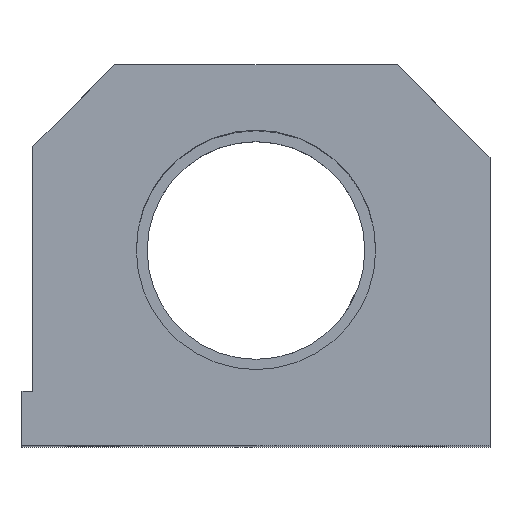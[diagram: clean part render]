
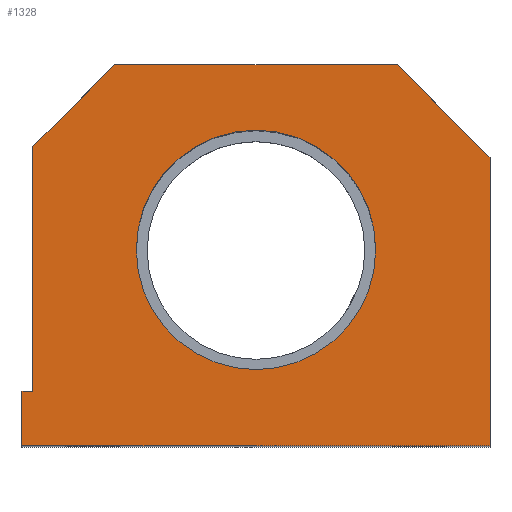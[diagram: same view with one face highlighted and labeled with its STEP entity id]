
A CAD part, top view. The second image highlights one B-rep face of the part: STEP entity #1328.
In plain terms, the highlighted planar face has unit normal (0, 0, 1).
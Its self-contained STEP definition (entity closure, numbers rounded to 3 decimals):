
#13 = CARTESIAN_POINT ( 'NONE',  ( 0., 0., 38. ) ) ;
#23 = FACE_OUTER_BOUND ( 'NONE', #1350, .T. ) ;
#27 = VECTOR ( 'NONE', #1153, 1000. ) ;
#35 = CARTESIAN_POINT ( 'NONE',  ( 11., 0.5, 38. ) ) ;
#58 = LINE ( 'NONE', #264, #27 ) ;
#105 = DIRECTION ( 'NONE',  ( -1., 0., 0. ) ) ;
#145 = VECTOR ( 'NONE', #1828, 1000. ) ;
#165 = LINE ( 'NONE', #2082, #1974 ) ;
#175 = CARTESIAN_POINT ( 'NONE',  ( -21.5, 9., 38. ) ) ;
#206 = DIRECTION ( 'NONE',  ( 1., 0., 0. ) ) ;
#264 = CARTESIAN_POINT ( 'NONE',  ( 21.5, 17.5, 38. ) ) ;
#397 = CARTESIAN_POINT ( 'NONE',  ( -11., 0.5, 38. ) ) ;
#442 = CARTESIAN_POINT ( 'NONE',  ( -21.5, -12.5, 38. ) ) ;
#455 = AXIS2_PLACEMENT_3D ( 'NONE', #1930, #2213, #1554 ) ;
#559 = VERTEX_POINT ( 'NONE', #1052 ) ;
#579 = EDGE_CURVE ( 'NONE', #1338, #827, #165, .T. ) ;
#594 = ORIENTED_EDGE ( 'NONE', *, *, #1486, .T. ) ;
#607 = EDGE_CURVE ( 'NONE', #1352, #2189, #886, .T. ) ;
#657 = CARTESIAN_POINT ( 'NONE',  ( -21.5, 17.5, 38. ) ) ;
#697 = EDGE_CURVE ( 'NONE', #1352, #1833, #2020, .T. ) ;
#699 = CARTESIAN_POINT ( 'NONE',  ( 21.5, -17.5, 38. ) ) ;
#700 = EDGE_CURVE ( 'NONE', #559, #827, #58, .T. ) ;
#733 = DIRECTION ( 'NONE',  ( -1., 0., 0. ) ) ;
#746 = DIRECTION ( 'NONE',  ( 0., 0., -1. ) ) ;
#809 = EDGE_CURVE ( 'NONE', #559, #2154, #1226, .T. ) ;
#820 = VECTOR ( 'NONE', #2054, 1000. ) ;
#827 = VERTEX_POINT ( 'NONE', #699 ) ;
#886 = LINE ( 'NONE', #2259, #1864 ) ;
#896 = VERTEX_POINT ( 'NONE', #1618 ) ;
#897 = DIRECTION ( 'NONE',  ( 1., 0., 0. ) ) ;
#899 = CARTESIAN_POINT ( 'NONE',  ( -21.5, -17.5, 38. ) ) ;
#910 = LINE ( 'NONE', #175, #1257 ) ;
#985 = ORIENTED_EDGE ( 'NONE', *, *, #607, .F. ) ;
#1052 = CARTESIAN_POINT ( 'NONE',  ( 21.5, 9., 38. ) ) ;
#1070 = AXIS2_PLACEMENT_3D ( 'NONE', #13, #746, #733 ) ;
#1123 = DIRECTION ( 'NONE',  ( 0., 0., 1. ) ) ;
#1137 = LINE ( 'NONE', #657, #145 ) ;
#1146 = CARTESIAN_POINT ( 'NONE',  ( -20.5, 10., 38. ) ) ;
#1153 = DIRECTION ( 'NONE',  ( 0., -1., 0. ) ) ;
#1202 = ORIENTED_EDGE ( 'NONE', *, *, #1425, .F. ) ;
#1226 = LINE ( 'NONE', #1724, #820 ) ;
#1257 = VECTOR ( 'NONE', #1790, 1000. ) ;
#1328 = ADVANCED_FACE ( 'NONE', ( #1463, #23 ), #1452, .F. ) ;
#1338 = VERTEX_POINT ( 'NONE', #899 ) ;
#1350 = EDGE_LOOP ( 'NONE', ( #985, #2137, #594, #1754, #2219, #1777, #1202, #1958 ) ) ;
#1352 = VERTEX_POINT ( 'NONE', #2126 ) ;
#1377 = ORIENTED_EDGE ( 'NONE', *, *, #1862, .F. ) ;
#1398 = DIRECTION ( 'NONE',  ( 0., 1., 0. ) ) ;
#1420 = EDGE_CURVE ( 'NONE', #896, #2189, #910, .T. ) ;
#1425 = EDGE_CURVE ( 'NONE', #896, #2154, #1610, .T. ) ;
#1451 = CIRCLE ( 'NONE', #455, 11. ) ;
#1452 = PLANE ( 'NONE',  #1070 ) ;
#1463 = FACE_BOUND ( 'NONE', #1588, .T. ) ;
#1486 = EDGE_CURVE ( 'NONE', #1833, #1338, #1137, .T. ) ;
#1554 = DIRECTION ( 'NONE',  ( 1., 0., 0. ) ) ;
#1563 = VECTOR ( 'NONE', #206, 1000. ) ;
#1588 = EDGE_LOOP ( 'NONE', ( #1717, #1377 ) ) ;
#1610 = LINE ( 'NONE', #1779, #1563 ) ;
#1618 = CARTESIAN_POINT ( 'NONE',  ( -13., 17.5, 38. ) ) ;
#1668 = VERTEX_POINT ( 'NONE', #35 ) ;
#1717 = ORIENTED_EDGE ( 'NONE', *, *, #1798, .F. ) ;
#1724 = CARTESIAN_POINT ( 'NONE',  ( 13., 17.5, 38. ) ) ;
#1754 = ORIENTED_EDGE ( 'NONE', *, *, #579, .T. ) ;
#1766 = VERTEX_POINT ( 'NONE', #397 ) ;
#1777 = ORIENTED_EDGE ( 'NONE', *, *, #809, .T. ) ;
#1779 = CARTESIAN_POINT ( 'NONE',  ( -21.5, 17.5, 38. ) ) ;
#1790 = DIRECTION ( 'NONE',  ( -0.707, -0.707, 0. ) ) ;
#1798 = EDGE_CURVE ( 'NONE', #1668, #1766, #1953, .T. ) ;
#1817 = CARTESIAN_POINT ( 'NONE',  ( -20.5, -12.5, 38. ) ) ;
#1828 = DIRECTION ( 'NONE',  ( 0., -1., 0. ) ) ;
#1833 = VERTEX_POINT ( 'NONE', #442 ) ;
#1862 = EDGE_CURVE ( 'NONE', #1766, #1668, #1451, .T. ) ;
#1864 = VECTOR ( 'NONE', #1398, 1000. ) ;
#1882 = VECTOR ( 'NONE', #105, 1000. ) ;
#1930 = CARTESIAN_POINT ( 'NONE',  ( 0., 0.5, 38. ) ) ;
#1953 = CIRCLE ( 'NONE', #2196, 11. ) ;
#1958 = ORIENTED_EDGE ( 'NONE', *, *, #1420, .T. ) ;
#1974 = VECTOR ( 'NONE', #897, 1000. ) ;
#2003 = DIRECTION ( 'NONE',  ( 1., 0., 0. ) ) ;
#2014 = CARTESIAN_POINT ( 'NONE',  ( 0., 0.5, 38. ) ) ;
#2020 = LINE ( 'NONE', #1817, #1882 ) ;
#2054 = DIRECTION ( 'NONE',  ( -0.707, 0.707, 0. ) ) ;
#2082 = CARTESIAN_POINT ( 'NONE',  ( -21.5, -17.5, 38. ) ) ;
#2126 = CARTESIAN_POINT ( 'NONE',  ( -20.5, -12.5, 38. ) ) ;
#2137 = ORIENTED_EDGE ( 'NONE', *, *, #697, .T. ) ;
#2147 = CARTESIAN_POINT ( 'NONE',  ( 13., 17.5, 38. ) ) ;
#2154 = VERTEX_POINT ( 'NONE', #2147 ) ;
#2189 = VERTEX_POINT ( 'NONE', #1146 ) ;
#2196 = AXIS2_PLACEMENT_3D ( 'NONE', #2014, #1123, #2003 ) ;
#2213 = DIRECTION ( 'NONE',  ( 0., 0., 1. ) ) ;
#2219 = ORIENTED_EDGE ( 'NONE', *, *, #700, .F. ) ;
#2259 = CARTESIAN_POINT ( 'NONE',  ( -20.5, -12.5, 38. ) ) ;
